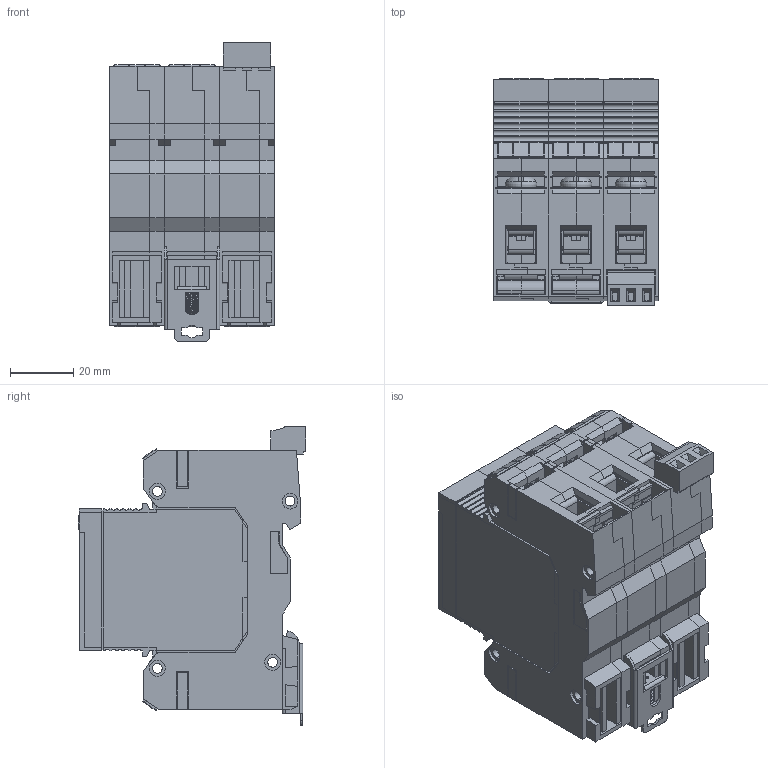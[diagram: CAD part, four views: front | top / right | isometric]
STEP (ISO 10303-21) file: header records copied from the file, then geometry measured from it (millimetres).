
FILE_DESCRIPTION (( 'STEP AP214' ), '1' );
FILE_NAME ('OptiIDn OM 3 ïîëþñà ñ ñèãíàëèçàòîðîì.STEP', '2022-12-05T08:17:03', ( '' ), ( '' ), 'SwSTEP 2.0', 'SolidWorks 2018', '' );
FILE_SCHEMA (( 'AUTOMOTIVE_DESIGN' ));
Length unit declared in the file: millimetre
Products named in the file (25): Îñíîâàíèå ìîäóëÿ Ï 50-095 ïóñòîé; Êîäèðîâî÷íàÿ âñòàâêà; Ïåðåìû÷êà 03-026; Ïðóæèíà çàùåëêè 13-007; Êîëîäêà 03-039 ïîä íîâûé ãàáàðèòû; 鎔艜 03-024; Ìåòêà 21-086; Çàãëóøêà ìîäóëÿ Ë 50-084; Ñüåìíûé ìîäóëü 01 ïóñòîé; Îñíîâàíèå ìîäóëÿ Ë 50-094(ïóñòîé ñ èçìåíåíûì ãàáàðèòîì)_„«ï ç¥àâ¥¦ ; Çàãëóøêà ìîäóëÿ Ï 50-083; Êîëîäêà øòåêåðíàÿ 540-2022 21-084; ﾂ鏆鮏 01; Çàùåëêà 11-010; 砑僔蠂縺 52-040_K3; Âûâîä 53-027 îáðåçàíûé äëÿ ñàéòà; 桎蝂鳪鳿僗闉 47-016 瀀嚦鍣; 署赅 01 矬耱铋; 扻豵鵨 01 瀀嚦鍣; Âñòàâêà êîäèðîâî÷íàÿ 50-082; OptiIDn OM 3 ïîëþñà ñ ñèãíàëèçàòîðîì
Assembly tree (53 placements, depth 3):
  OptiIDn OM 3 ïîëþñà ñ ñèãíàëèçàòîðîì
    Îñíîâàíèå ìîäóëÿ Ë 50-094(ïóñòîé ñ èçìåíåíûì ãàáàðèòîì)_„«ï ç¥àâ¥¦ 
    Îñíîâàíèå ìîäóëÿ Ï 50-095 ïóñòîé
    Âûâîä 53-027 îáðåçàíûé äëÿ ñàéòà  x6
    Çàãëóøêà ìîäóëÿ Ë 50-084  x3
    Êîëîäêà 03-039 ïîä íîâûé ãàáàðèòû  x6
    Âñòàâêà êîäèðîâî÷íàÿ 50-082  x3
    鎔艜 03-024  x6
    砑僔蠂縺 52-040_K3
    Ìåòêà 21-086  x6
    Ñüåìíûé ìîäóëü 01 ïóñòîé  x3
      扻豵鵨 01 瀀嚦鍣
      署赅 01 矬耱铋
      Êîäèðîâî÷íàÿ âñòàâêà
      ﾂ鏆鮏 01
      Ìåòêà 21-086
    桎蝂鳪鳿僗闉 47-016 瀀嚦鍣
    Êîëîäêà øòåêåðíàÿ 540-2022 21-084
    Îñíîâàíèå ìîäóëÿ Ï 50-095 ïóñòîé
    Îñíîâàíèå ìîäóëÿ Ï 50-095 ïóñòîé
    Îñíîâàíèå ìîäóëÿ Ë 50-094(ïóñòîé ñ èçìåíåíûì ãàáàðèòîì)_„«ï ç¥àâ¥¦ 
    Îñíîâàíèå ìîäóëÿ Ë 50-094(ïóñòîé ñ èçìåíåíûì ãàáàðèòîì)_„«ï ç¥àâ¥¦ 
    Çàãëóøêà ìîäóëÿ Ï 50-083  x2
    Ïðóæèíà çàùåëêè 13-007
    Çàùåëêà 11-010
    Ïåðåìû÷êà 03-026
Bounding box: 52.4 x 71.88 x 94.6 mm (x, y, z)
Volume: 88303.8 mm3; surface area: 158378.8 mm2
Topology: 62 solids, 62 shells, 6316 faces, 17572 edges, 11449 vertices
Faces by surface type: plane 5141, cylinder 1117, torus 24, bspline 20, cone 14
Entity records: 113437 total; most frequent: CARTESIAN_POINT 21830, ORIENTED_EDGE 19078, DIRECTION 17454, EDGE_CURVE 9539, LINE 8348, VECTOR 8348, VERTEX_POINT 6259, AXIS2_PLACEMENT_3D 4553
